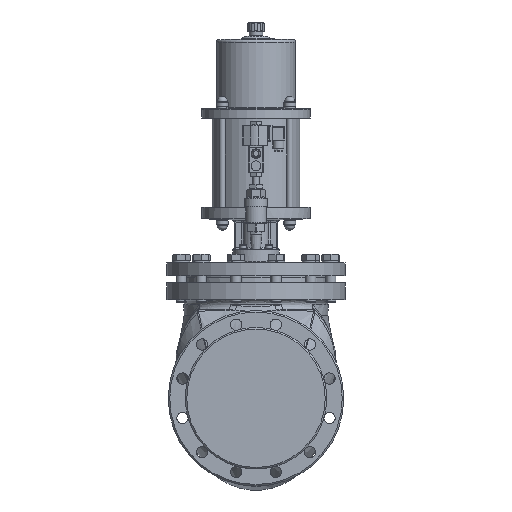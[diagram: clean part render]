
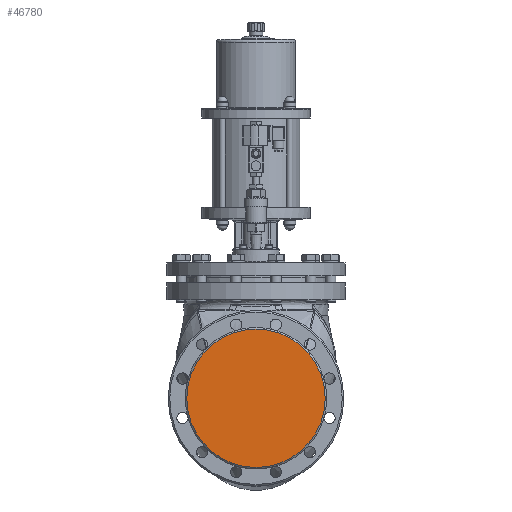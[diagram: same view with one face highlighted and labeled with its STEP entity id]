
A CAD part, left-side view. The second image highlights one B-rep face of the part: STEP entity #46780.
In plain terms, the highlighted planar face has unit normal (-1, 0, 0).
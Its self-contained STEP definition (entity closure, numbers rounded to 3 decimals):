
#46760=CARTESIAN_POINT('',(-300.0,0.0,134.0));
#46761=VERTEX_POINT('',#46760);
#46762=CARTESIAN_POINT('',(-300.0,0.0,0.0));
#46763=DIRECTION('',(-1.0,0.0,0.0));
#46764=DIRECTION('',(0.0,0.0,1.0));
#46765=AXIS2_PLACEMENT_3D('',#46762,#46763,#46764);
#46766=CIRCLE('',#46765,134.0);
#46767=EDGE_CURVE('',#46761,#46761,#46766,.T.);
#46772=CARTESIAN_POINT('',(-300.0,0.0,0.0));
#46773=DIRECTION('',(-1.0,0.0,0.0));
#46774=DIRECTION('',(0.0,0.0,1.0));
#46775=AXIS2_PLACEMENT_3D('',#46772,#46773,#46774);
#46776=PLANE('',#46775);
#46777=ORIENTED_EDGE('',*,*,#46767,.T.);
#46778=EDGE_LOOP('',(#46777));
#46779=FACE_OUTER_BOUND('',#46778,.T.);
#46780=ADVANCED_FACE('',(#46779),#46776,.T.);
